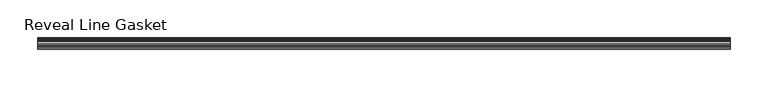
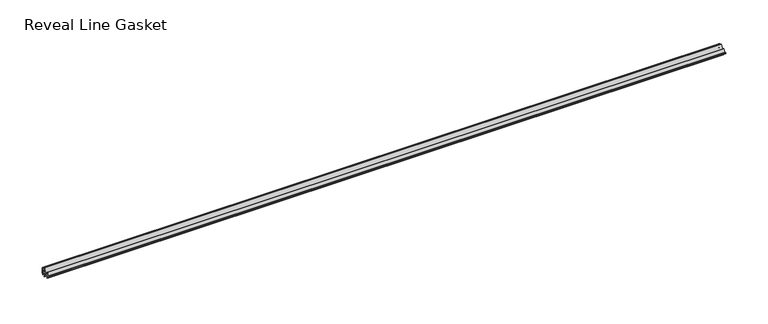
"""IFC4 building model written with IfcOpenShell, lengths in millimetres: proxy geometry, Accessories-Teknion-FHGR-AI_Healthcare-Reveal_Line_Gasket(Horizontal)-R2022 : Reveal Line Gasket."""

from ifc_helpers import new_model, si_unit, point, frame, frame_2d, origin, place, context, project, spatial, polyline, circle_curve, trimmed, segment, composite_curve, outline, extrude, source, transform, mapped, element, save


def reveal_line_gasket_3ff7a8d7(model_context):
    return source(origin(), model_context, "Body", "SweptSolid", [
        extrude(outline(composite_curve([segment(polyline([(7.6326998, 1603.2), (7.6326998, 1597.2), (7.4091917, 1596.2445073), (6.8813059, 1595.3115316)]), True, "CONTINUOUS"), segment(trimmed(circle_curve(frame_2d((6.5243141, 1595.5135207)), 0.4101739), [point((6.8813059, 1595.3115316))], [point((6.1246704, 1595.6058653))], False, "CARTESIAN"), True, "CONTINUOUS"), segment(polyline([(6.1246704, 1595.6058653), (6.3626997, 1597.3020914), (6.3626997, 1599.3345473)]), True, "CONTINUOUS"), segment(trimmed(circle_curve(frame_2d((5.6959605, 1598.9180742)), 0.786124), [point((6.3626997, 1599.3345473))], [point((5.0926996, 1599.422125))], True, "CARTESIAN"), True, "CONTINUOUS"), segment(polyline([(5.0926996, 1599.422125), (0.7492996, 1599.422125), (3.7293824, 1594.2604705)]), True, "CONTINUOUS"), segment(trimmed(circle_curve(frame_2d((3.3132479, 1594.1950239)), 0.4212495), [point((3.7293824, 1594.2604705))], [point((3.0485022, 1593.8673642))], False, "CARTESIAN"), True, "CONTINUOUS"), segment(polyline([(3.0485022, 1593.8673642), (-0.5742594, 1599.422125), (-4.8262978, 1599.422125), (-3.1660374, 1596.5464703)]), True, "CONTINUOUS"), segment(trimmed(circle_curve(frame_2d((-3.5978728, 1596.4881145)), 0.4357605), [point((-3.1660374, 1596.5464703))], [point((-3.864328, 1596.1433119))], False, "CARTESIAN"), True, "CONTINUOUS"), segment(polyline([(-3.864328, 1596.1433119), (-6.1944059, 1599.422125), (-7.6326998, 1599.422125), (-7.6326998, 1600.977875), (-6.1944059, 1600.977875), (-3.864328, 1604.2566881)]), True, "CONTINUOUS"), segment(trimmed(circle_curve(frame_2d((-3.5978728, 1603.9118855)), 0.4357605), [point((-3.864328, 1604.2566881))], [point((-3.1660374, 1603.8535297))], False, "CARTESIAN"), True, "CONTINUOUS"), segment(polyline([(-3.1660374, 1603.8535297), (-4.8262978, 1600.977875), (-0.5742594, 1600.977875), (3.0485022, 1606.5326358)]), True, "CONTINUOUS"), segment(trimmed(circle_curve(frame_2d((3.3132479, 1606.2049761)), 0.4212495), [point((3.0485022, 1606.5326358))], [point((3.7293824, 1606.1395295))], False, "CARTESIAN"), True, "CONTINUOUS"), segment(polyline([(3.7293824, 1606.1395295), (0.7492996, 1600.977875), (5.0926996, 1600.977875)]), True, "CONTINUOUS"), segment(trimmed(circle_curve(frame_2d((5.6959605, 1601.4819258)), 0.786124), [point((5.0926996, 1600.977875))], [point((6.3626997, 1601.0654527))], True, "CARTESIAN"), True, "CONTINUOUS"), segment(polyline([(6.3626997, 1601.0654527), (6.3626997, 1603.0979086), (6.1246704, 1604.7941347)]), True, "CONTINUOUS"), segment(trimmed(circle_curve(frame_2d((6.5243141, 1604.8864793)), 0.4101739), [point((6.1246704, 1604.7941347))], [point((6.8813059, 1605.0884684))], False, "CARTESIAN"), True, "CONTINUOUS"), segment(polyline([(6.8813059, 1605.0884684), (7.4091917, 1604.1554927), (7.6326998, 1603.2)]), True, "CONTINUOUS")], self_intersect=False)), frame((-460.6862302, 0.0, 0.0), z_axis=(1.0, 0.0, 0.0), x_axis=(0.0, 1.0, 0.0)), (0.0, 0.0, 1.0), 921.3724603),
    ])


if __name__ == "__main__":
    model = new_model("IFC4")
    model_context = context("Model", 3, world=origin())
    ifc_project = project(units=[si_unit("LENGTHUNIT", "METRE", prefix="MILLI")], contexts=[model_context])
    site = spatial("IfcSite", under=ifc_project)
    building = spatial("IfcBuilding", under=site)
    placement = place(None, origin())
    reveal_line_gasket_shape = reveal_line_gasket_3ff7a8d7(model_context)
    element("IfcBuildingElementProxy", 1, Name="Accessories-Teknion-FHGR-AI_Healthcare-Reveal_Line_Gasket(Horizontal)-R2022 : Reveal Line Gasket", ObjectType="Accessories-Teknion-FHGR-AI_Healthcare-Reveal_Line_Gasket(Horizontal)-R2022 : Reveal Line Gasket", at=placement, inside=building, context=model_context, shape_type="MappedRepresentation", body=[
        mapped(reveal_line_gasket_shape, transform((0.0, 0.0, 0.0), x_axis=(1.0, 0.0, 0.0), y_axis=(0.0, 1.0, 0.0), z_axis=(0.0, 0.0, 1.0))),
    ])
    save(model, "model.ifc")
